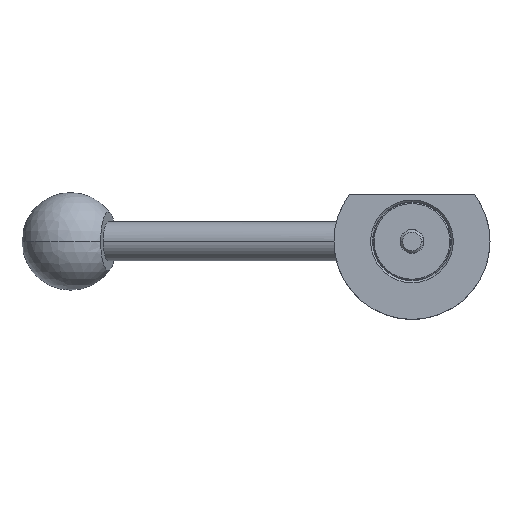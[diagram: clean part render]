
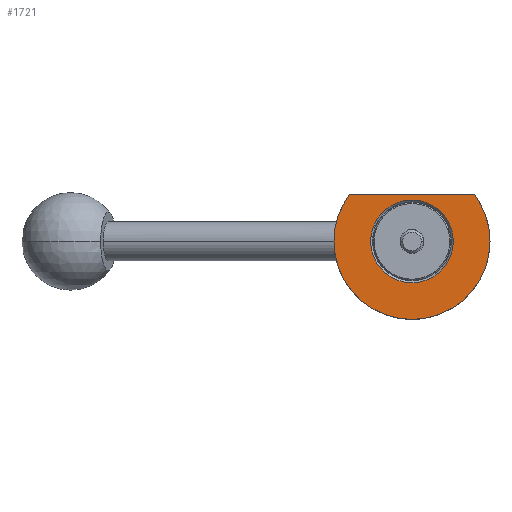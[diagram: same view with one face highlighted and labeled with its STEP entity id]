
A CAD part, front view. The second image highlights one B-rep face of the part: STEP entity #1721.
In plain terms, the highlighted planar face has unit normal (0, -1, 0).
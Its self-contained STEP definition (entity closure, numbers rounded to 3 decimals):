
#2 = ORIENTED_EDGE ( 'NONE', *, *, #986, .F. ) ;
#18 = DIRECTION ( 'NONE',  ( -1., 0., 0. ) ) ;
#24 = DIRECTION ( 'NONE',  ( 0., -1., 0. ) ) ;
#79 = CARTESIAN_POINT ( 'NONE',  ( 0., -10., 0. ) ) ;
#112 = EDGE_CURVE ( 'NONE', #1632, #1620, #1010, .T. ) ;
#185 = FACE_BOUND ( 'NONE', #787, .T. ) ;
#193 = VERTEX_POINT ( 'NONE', #997 ) ;
#266 = CARTESIAN_POINT ( 'NONE',  ( -10.6, -10., 0. ) ) ;
#291 = CARTESIAN_POINT ( 'NONE',  ( 0., -10., 0. ) ) ;
#310 = DIRECTION ( 'NONE',  ( 0., 1., 0. ) ) ;
#341 = ORIENTED_EDGE ( 'NONE', *, *, #112, .T. ) ;
#421 = ORIENTED_EDGE ( 'NONE', *, *, #603, .F. ) ;
#436 = DIRECTION ( 'NONE',  ( 0., 1., 0. ) ) ;
#464 = AXIS2_PLACEMENT_3D ( 'NONE', #79, #1352, #571 ) ;
#470 = FACE_OUTER_BOUND ( 'NONE', #1056, .T. ) ;
#571 = DIRECTION ( 'NONE',  ( -1., 0., 0. ) ) ;
#603 = EDGE_CURVE ( 'NONE', #1135, #1074, #955, .T. ) ;
#617 = DIRECTION ( 'NONE',  ( -1., 0., 0. ) ) ;
#627 = VECTOR ( 'NONE', #1701, 1000. ) ;
#631 = AXIS2_PLACEMENT_3D ( 'NONE', #291, #436, #617 ) ;
#648 = ORIENTED_EDGE ( 'NONE', *, *, #1500, .T. ) ;
#650 = DIRECTION ( 'NONE',  ( 1., 0., 0. ) ) ;
#701 = CIRCLE ( 'NONE', #1184, 20. ) ;
#745 = DIRECTION ( 'NONE',  ( 0., 1., 0. ) ) ;
#787 = EDGE_LOOP ( 'NONE', ( #341, #1867 ) ) ;
#875 = ORIENTED_EDGE ( 'NONE', *, *, #905, .F. ) ;
#905 = EDGE_CURVE ( 'NONE', #1074, #193, #1642, .T. ) ;
#952 = PLANE ( 'NONE',  #1088 ) ;
#955 = CIRCLE ( 'NONE', #631, 20. ) ;
#986 = EDGE_CURVE ( 'NONE', #193, #1785, #701, .T. ) ;
#997 = CARTESIAN_POINT ( 'NONE',  ( -20., -10., 0. ) ) ;
#1010 = CIRCLE ( 'NONE', #1173, 10.6 ) ;
#1053 = CARTESIAN_POINT ( 'NONE',  ( -16.001, -10., 11.999 ) ) ;
#1056 = EDGE_LOOP ( 'NONE', ( #421, #648, #2, #875 ) ) ;
#1074 = VERTEX_POINT ( 'NONE', #1813 ) ;
#1075 = DIRECTION ( 'NONE',  ( -1., 0., 0. ) ) ;
#1088 = AXIS2_PLACEMENT_3D ( 'NONE', #1431, #24, #650 ) ;
#1135 = VERTEX_POINT ( 'NONE', #1963 ) ;
#1162 = AXIS2_PLACEMENT_3D ( 'NONE', #1889, #1697, #1375 ) ;
#1173 = AXIS2_PLACEMENT_3D ( 'NONE', #1715, #310, #18 ) ;
#1184 = AXIS2_PLACEMENT_3D ( 'NONE', #1403, #745, #1075 ) ;
#1222 = LINE ( 'NONE', #2004, #627 ) ;
#1226 = CIRCLE ( 'NONE', #1162, 10.6 ) ;
#1352 = DIRECTION ( 'NONE',  ( 0., 1., 0. ) ) ;
#1375 = DIRECTION ( 'NONE',  ( -1., 0., 0. ) ) ;
#1403 = CARTESIAN_POINT ( 'NONE',  ( 0., -10., 0. ) ) ;
#1431 = CARTESIAN_POINT ( 'NONE',  ( -10.6, -10., 0. ) ) ;
#1500 = EDGE_CURVE ( 'NONE', #1135, #1785, #1222, .T. ) ;
#1576 = CARTESIAN_POINT ( 'NONE',  ( 10.6, -10., 0. ) ) ;
#1620 = VERTEX_POINT ( 'NONE', #266 ) ;
#1632 = VERTEX_POINT ( 'NONE', #1576 ) ;
#1642 = CIRCLE ( 'NONE', #464, 20. ) ;
#1697 = DIRECTION ( 'NONE',  ( 0., 1., 0. ) ) ;
#1701 = DIRECTION ( 'NONE',  ( -1., 0., 0. ) ) ;
#1715 = CARTESIAN_POINT ( 'NONE',  ( 0., -10., 0. ) ) ;
#1721 = ADVANCED_FACE ( 'NONE', ( #185, #470 ), #952, .T. ) ;
#1785 = VERTEX_POINT ( 'NONE', #1053 ) ;
#1813 = CARTESIAN_POINT ( 'NONE',  ( 20., -10., 0. ) ) ;
#1867 = ORIENTED_EDGE ( 'NONE', *, *, #1930, .T. ) ;
#1889 = CARTESIAN_POINT ( 'NONE',  ( 0., -10., 0. ) ) ;
#1930 = EDGE_CURVE ( 'NONE', #1620, #1632, #1226, .T. ) ;
#1963 = CARTESIAN_POINT ( 'NONE',  ( 16.001, -10., 11.999 ) ) ;
#2004 = CARTESIAN_POINT ( 'NONE',  ( -10.6, -10., 11.999 ) ) ;
